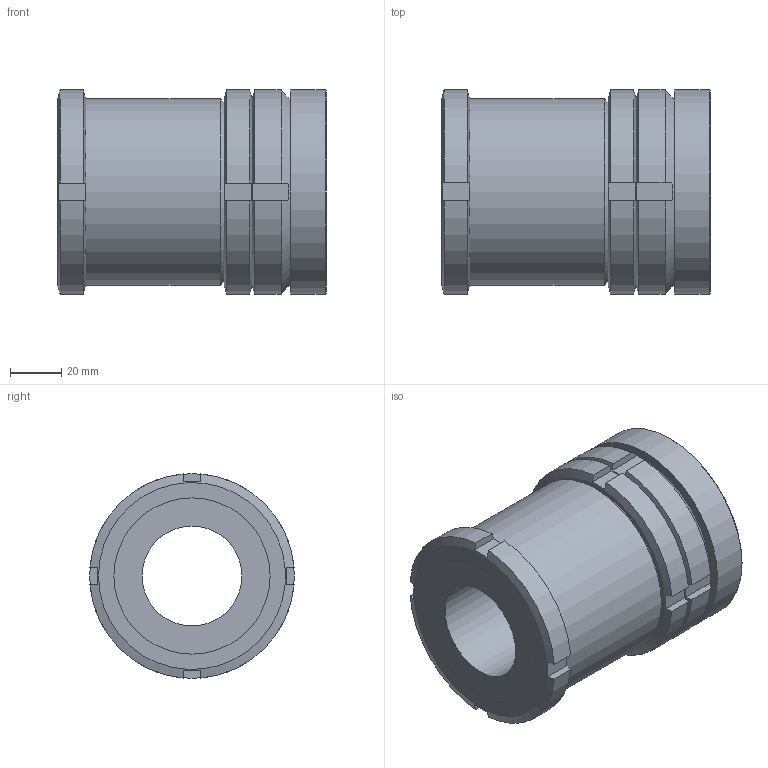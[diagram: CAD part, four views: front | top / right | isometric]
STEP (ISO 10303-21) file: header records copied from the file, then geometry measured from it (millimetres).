
FILE_DESCRIPTION( ( 'STEP AP203' ), '1' );
FILE_NAME( 'C:/Temp/Ganter_Step_05_03_2020/data/3_2/gn350_5/gn350_5_st/Levelling set GN 350.5-80-39-105-ST (0-0).stp', '2020-03-13T05:28:43', ( 'License CC BY-ND 4.0' ), ( 'CADENAS' ), ' ', 'PARTsolutions', ' ' );
FILE_SCHEMA( ( 'CONFIG_CONTROL_DESIGN' ) );
Length unit declared in the file: millimetre
Products named in the file (5): Levelling set GN 350.5-80-39-105-ST (0-0); _Levelling set GN 350.5-80-39-105-ST-G; _Levelling set GN 350.5-80-39-105-ST-K; _Levelling set GN 350.5-80-39-105-ST-P(0); _Levelling set GN 350.5-80-39-67-ST-KM
Assembly tree (4 placements, depth 2):
  Levelling set GN 350.5-80-39-105-ST (0-0)
    _Levelling set GN 350.5-80-39-105-ST-G
    _Levelling set GN 350.5-80-39-105-ST-K
    _Levelling set GN 350.5-80-39-105-ST-P(0)
    _Levelling set GN 350.5-80-39-67-ST-KM
Bounding box: 105 x 80 x 80 mm (x, y, z)
Volume: 344678.5 mm3; surface area: 91515.7 mm2
Topology: 4 solids, 4 shells, 85 faces, 211 edges, 140 vertices
Faces by surface type: plane 50, cylinder 24, cone 9, sphere 2
Full cylindrical faces by diameter (mm): 39 x1, 48 x1, 53.529 x1, 54.5 x1, 57.835 x1, 58.917 x1, 60 x2, 61 x2, 73 x1, 80 x1
Entity records: 2696 total; most frequent: CARTESIAN_POINT 698, DIRECTION 368, ORIENTED_EDGE 356, EDGE_CURVE 178, AXIS2_PLACEMENT_3D 160, VERTEX_POINT 130, EDGE_LOOP 122, FACE_OUTER_BOUND 99
